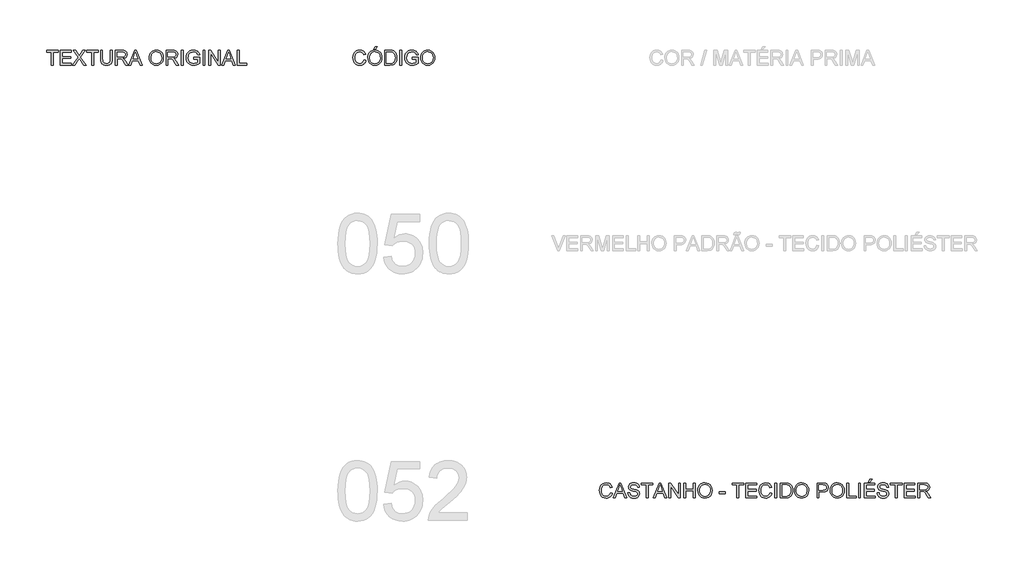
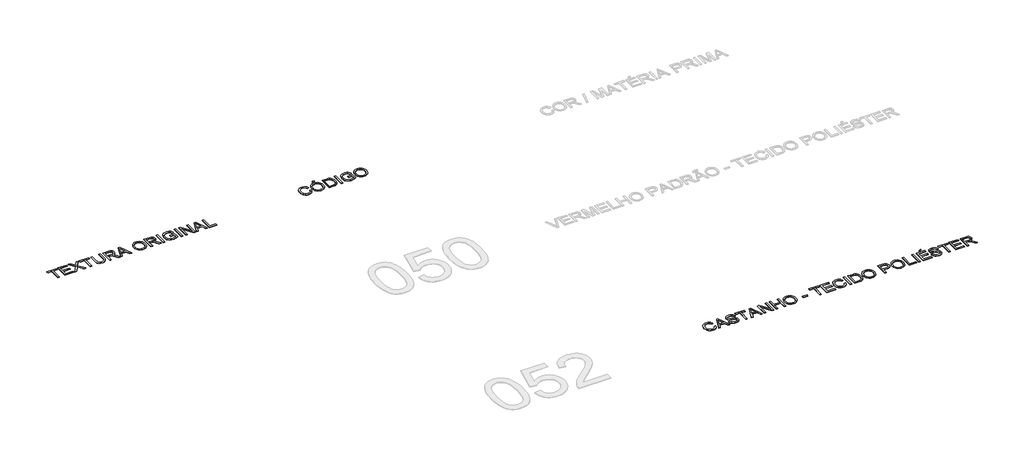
# One storey, part 19 of 67: 3 proxies.
"""IFC4 building model written with IfcOpenShell, lengths in millimetres."""

from ifc_helpers import new_model, si_unit, origin, origin_with_axes, place, context, project, spatial, polyline, outline, extrude, element, save

model = new_model("IFC4")

# Units and contexts
model_context = context("Model", 3, world=origin())
ifc_project = project(units=[si_unit("LENGTHUNIT", "METRE", prefix="MILLI")], contexts=[model_context])

# Site, building, storey
site = spatial("IfcSite", under=ifc_project)
building = spatial("IfcBuilding", under=site)
storey = spatial("IfcBuildingStorey", under=building, Name="Marelli - Linha COLAB - Planta Baixa", Elevation=0.0)

# Proxies
placement = place(None, origin())
element("IfcBuildingElementProxy", 1, Name="300mm Arial", ObjectType="300mm Arial", at=placement, inside=storey, context=model_context, shape_type="SweptSolid", body=[
    extrude(outline(polyline([(-24700.8246463, -26173.4390831), (-24663.15353, -26183.1511677), (-24670.6077389, -26206.5783531), (-24680.5359543, -26227.0486868), (-24692.938176, -26244.5621691), (-24707.8144042, -26259.1187997), (-24724.8289465, -26270.5622291), (-24743.6461105, -26278.7361071), (-24764.2658964, -26283.640434), (-24786.688304, -26285.2752096), (-24830.383488, -26280.3271968), (-24865.0839571, -26265.4831583), (-24891.6818254, -26241.2581289), (-24911.0692065, -26208.1671434), (-24922.9058097, -26169.2636224), (-24926.8513441, -26127.6009865), (-24922.3907749, -26083.6574821), (-24909.0090674, -26045.7104543), (-24887.4051972, -26014.9647166), (-24858.2781402, -25992.6250824), (-24823.7340209, -25979.0226457), (-24785.8789636, -25974.4885001), (-24744.5750126, -25980.3562179), (-24726.6062764, -25987.6908652), (-24710.4263664, -25997.9593714), (-24696.301997, -26010.8904235), (-24684.4998828, -26026.2127086), (-24667.8624195, -26064.0309777), (-24705.5335358, -26073.0072984), (-24718.5933467, -26045.5357104), (-24736.4356234, -26026.6909552), (-24759.2810953, -26015.7924511), (-24787.3504916, -26012.1596164), (-24819.705713, -26016.1879242), (-24846.2851872, -26028.2728478), (-24866.4543176, -26047.1451941), (-24879.5785078, -26071.5357704), (-24886.7797978, -26099.1085259), (-24889.1802278, -26127.5274101), (-24886.3383394, -26162.3290468), (-24877.8126742, -26192.421794), (-24863.2813354, -26216.6560205), (-24842.4224262, -26233.8820949), (-24817.4156476, -26244.1735937), (-24790.4407003, -26247.6040933), (-24758.9959868, -26242.931992), (-24732.7935917, -26228.9156879), (-24713.0107374, -26205.702334), (-24700.8246463, -26173.4390831)])), origin_with_axes(), (0.0, 0.0, 1.0), 10.0),
    extrude(outline(polyline([(-24625.4824137, -26133.8549804), (-24622.9716191, -26098.5061192), (-24615.4392352, -26067.213157), (-24602.8852621, -26039.9760937), (-24585.3096998, -26016.7949295), (-24563.7656105, -25998.2858666), (-24539.3060563, -25985.0651074), (-24511.9310374, -25977.1326519), (-24481.6405536, -25974.4885001), (-24442.1116332, -25979.454907), (-24406.666203, -25994.3541278), (-24377.2356433, -26018.1376988), (-24355.7513348, -26049.7571563), (-24342.6179476, -26087.68579), (-24338.2401519, -26130.3968896), (-24342.8478738, -26173.6782064), (-24356.6710398, -26212.140269), (-24378.9462946, -26243.8149087), (-24408.9102831, -26266.733957), (-24444.0522107, -26280.6398965), (-24481.8612828, -26285.2752096), (-24521.9972084, -26280.1524528), (-24557.6449738, -26264.7841825), (-24587.001957, -26240.5591531), (-24608.2655363, -26208.8661192), (-24621.1781943, -26172.3998164), (-24625.4824137, -26133.8549804)]), holes=[polyline([(-24587.8112974, -26134.2228624), (-24585.9282014, -26159.1974513), (-24580.2789135, -26181.3669401), (-24570.8634337, -26200.7313286), (-24557.681762, -26217.2906169), (-24541.6582018, -26230.5527628), (-24523.7170568, -26240.0257242), (-24503.8583268, -26245.709501), (-24482.082012, -26247.6040933), (-24459.9332166, -26245.6911069), (-24439.8399619, -26239.9521478), (-24421.8022478, -26230.3872159), (-24405.8200744, -26216.9963113), (-24392.7349717, -26200.0875351), (-24383.3884697, -26179.9689885), (-24377.7805685, -26156.6406715), (-24375.9112682, -26130.102584), (-24379.1118415, -26096.7540812), (-24388.7135616, -26067.9305269), (-24404.468108, -26044.358488), (-24426.1271605, -26026.7645316), (-24452.2559792, -26015.8108452), (-24481.4198244, -26012.1596164), (-24502.4396819, -26013.9185522), (-24521.9420261, -26019.1953595), (-24539.9268572, -26027.9900385), (-24556.394175, -26040.302589), (-24570.139166, -26056.7262208), (-24579.9570168, -26077.8541437), (-24585.8477272, -26103.6863575), (-24587.8112974, -26134.2228624)])]), origin_with_axes(), (0.0, 0.0, 1.0), 10.0),
    extrude(outline(polyline([(-24507.7601752, -25960.3618315), (-24479.506838, -25903.855157), (-24432.4179426, -25903.855157), (-24479.506838, -25960.3618315), (-24507.7601752, -25960.3618315)])), origin_with_axes(), (0.0, 0.0, 1.0), 10.0),
    extrude(outline(polyline([(-24286.4423669, -26280.5663201), (-24286.4423669, -25979.1973896), (-24182.4789151, -25979.1973896), (-24128.6945674, -25983.5383972), (-24104.6718731, -25991.9077126), (-24084.4015752, -26005.0962821), (-24063.5610602, -26028.0521186), (-24048.7170217, -26056.5997614), (-24039.8326715, -26090.1873876), (-24036.8712214, -26128.2631741), (-24038.8761783, -26160.6091985), (-24044.8910489, -26189.0740679), (-24054.0513106, -26213.3082943), (-24065.4924406, -26232.9623899), (-24078.6626161, -26248.477813), (-24093.0100139, -26260.2960221), (-24109.4819302, -26269.0608107), (-24129.0256612, -26275.4159721), (-24177.47572, -26280.5663201), (-24286.4423669, -26280.5663201)]), holes=[polyline([(-24248.7712506, -26242.8952038), (-24182.1110331, -26242.8952038), (-24154.5382776, -26241.5340404), (-24133.6241861, -26237.4505502), (-24117.8420485, -26230.8838566), (-24105.6651545, -26222.0730828), (-24092.5777525, -26205.7667134), (-24082.7461062, -26184.6594839), (-24076.5932798, -26158.6594239), (-24074.5423377, -26127.6745629), (-24078.5614485, -26086.6189322), (-24090.6187809, -26056.3054558), (-24108.4334665, -26035.4833349), (-24129.724637, -26022.9017706), (-24151.3928865, -26018.3768221), (-24183.1411027, -26016.8685059), (-24248.7712506, -26016.8685059), (-24248.7712506, -26242.8952038)])]), origin_with_axes(), (0.0, 0.0, 1.0), 10.0),
    extrude(outline(polyline([(-23980.3645469, -26280.5663201), (-23980.3645469, -25979.1973896), (-23942.6934306, -25979.1973896), (-23942.6934306, -26280.5663201), (-23980.3645469, -26280.5663201)])), origin_with_axes(), (0.0, 0.0, 1.0), 10.0),
    extrude(outline(polyline([(-23726.0845119, -26162.8440816), (-23726.0845119, -26125.1729653), (-23603.6533839, -26125.1729653), (-23603.6533839, -26237.8184322), (-23633.4058402, -26258.5117945), (-23664.0963957, -26273.355833), (-23695.6514738, -26282.2953654), (-23727.9974983, -26285.2752096), (-23770.2579425, -26280.5387289), (-23808.4532906, -26266.3292869), (-23840.1831127, -26243.1435241), (-23863.0469787, -26211.4780814), (-23876.8701447, -26173.4942654), (-23881.4778666, -26131.3533828), (-23876.8885388, -26088.9089976), (-23863.1205551, -26049.4260625), (-23840.7441327, -26016.3074859), (-23810.3294888, -25992.9561762), (-23773.2837719, -25979.1054191), (-23731.0141306, -25974.4885001), (-23699.9832843, -25977.1648416), (-23672.079435, -25985.1938661), (-23648.5809725, -25997.9961596), (-23630.7662869, -26014.9923077), (-23617.5869145, -26037.0008481), (-23607.9943914, -26064.8403181), (-23642.7224518, -26074.6259792), (-23650.4755648, -26054.7695485), (-23659.9025409, -26039.7875542), (-23672.3737406, -26028.493577), (-23689.2595242, -26019.7011973), (-23709.3918663, -26014.0450116), (-23731.6027418, -26012.1596164), (-23757.6028018, -26014.1921644), (-23779.8320714, -26020.2898085), (-23798.207777, -26029.6891935), (-23812.6471453, -26041.6269642), (-23832.0345265, -26070.6528536), (-23840.8636944, -26099.0901318), (-23843.8067503, -26129.8082784), (-23840.2658861, -26165.8331228), (-23829.6432935, -26195.4752146), (-23812.2608693, -26218.5230216), (-23788.4405101, -26234.7650117), (-23760.5642519, -26244.3943229), (-23731.0141306, -26247.6040933), (-23704.9221001, -26245.1852692), (-23679.4738631, -26237.9287968), (-23657.3733522, -26227.9316036), (-23641.3245002, -26217.2906169), (-23641.3245002, -26162.8440816), (-23726.0845119, -26162.8440816)])), origin_with_axes(), (0.0, 0.0, 1.0), 10.0),
    extrude(outline(polyline([(-23556.5644885, -26133.8549804), (-23554.0536939, -26098.5061192), (-23546.52131, -26067.213157), (-23533.9673369, -26039.9760937), (-23516.3917746, -26016.7949295), (-23494.8476853, -25998.2858666), (-23470.3881311, -25985.0651074), (-23443.0131122, -25977.1326519), (-23412.7226284, -25974.4885001), (-23373.193708, -25979.454907), (-23337.7482778, -25994.3541278), (-23308.3177182, -26018.1376988), (-23286.8334096, -26049.7571563), (-23273.7000224, -26087.68579), (-23269.3222267, -26130.3968896), (-23273.9299487, -26173.6782064), (-23287.7531146, -26212.140269), (-23310.0283694, -26243.8149087), (-23339.9923579, -26266.733957), (-23375.1342855, -26280.6398965), (-23412.9433576, -26285.2752096), (-23453.0792833, -26280.1524528), (-23488.7270486, -26264.7841825), (-23518.0840318, -26240.5591531), (-23539.3476111, -26208.8661192), (-23552.2602692, -26172.3998164), (-23556.5644885, -26133.8549804)]), holes=[polyline([(-23518.8933722, -26134.2228624), (-23517.0102762, -26159.1974513), (-23511.3609883, -26181.3669401), (-23501.9455085, -26200.7313286), (-23488.7638368, -26217.2906169), (-23472.7402766, -26230.5527628), (-23454.7991316, -26240.0257242), (-23434.9404016, -26245.709501), (-23413.1640868, -26247.6040933), (-23391.0152914, -26245.6911069), (-23370.9220367, -26239.9521478), (-23352.8843226, -26230.3872159), (-23336.9021492, -26216.9963113), (-23323.8170465, -26200.0875351), (-23314.4705445, -26179.9689885), (-23308.8626434, -26156.6406715), (-23306.993343, -26130.102584), (-23310.1939163, -26096.7540812), (-23319.7956364, -26067.9305269), (-23335.5501829, -26044.358488), (-23357.2092353, -26026.7645316), (-23383.338054, -26015.8108452), (-23412.5018992, -26012.1596164), (-23433.5217567, -26013.9185522), (-23453.024101, -26019.1953595), (-23471.008932, -26027.9900385), (-23487.4762498, -26040.302589), (-23501.2212409, -26056.7262208), (-23511.0390916, -26077.8541437), (-23516.929802, -26103.6863575), (-23518.8933722, -26134.2228624)])]), origin_with_axes(), (0.0, 0.0, 1.0), 10.0),
])
element("IfcBuildingElementProxy", 2, Name="300mm Arial", ObjectType="300mm Arial", at=placement, inside=storey, context=model_context, shape_type="SweptSolid", body=[
    extrude(outline(polyline([(-31021.6681618, -26280.5663201), (-31021.6681618, -26016.8685059), (-31120.5548421, -26016.8685059), (-31120.5548421, -25979.1973896), (-30885.1103652, -25979.1973896), (-30885.1103652, -26016.8685059), (-30983.9970455, -26016.8685059), (-30983.9970455, -26280.5663201), (-31021.6681618, -26280.5663201)])), origin_with_axes(), (0.0, 0.0, 1.0), 10.0),
    extrude(outline(polyline([(-30842.7303593, -26280.5663201), (-30842.7303593, -25979.1973896), (-30626.1214406, -25979.1973896), (-30626.1214406, -26016.8685059), (-30805.059243, -26016.8685059), (-30805.059243, -26106.3374072), (-30635.5392196, -26106.3374072), (-30635.5392196, -26144.0085235), (-30805.059243, -26144.0085235), (-30805.059243, -26242.8952038), (-30621.412551, -26242.8952038), (-30621.412551, -26280.5663201), (-30842.7303593, -26280.5663201)])), origin_with_axes(), (0.0, 0.0, 1.0), 10.0),
    extrude(outline(polyline([(-30597.8681033, -26280.5663201), (-30481.6909693, -26116.3437974), (-30579.0325452, -25979.1973896), (-30533.8566362, -25979.1973896), (-30479.0422189, -26056.3790322), (-30460.5745427, -26086.4717794), (-30438.9430814, -26055.8639974), (-30384.7172753, -25979.1973896), (-30338.8791787, -25979.1973896), (-30436.2207547, -26116.7852558), (-30320.0436206, -26280.5663201), (-30365.2195296, -26280.5663201), (-30442.6219014, -26171.3789439), (-30458.7351328, -26148.717413), (-30476.4670449, -26173.5862359), (-30552.0300067, -26280.5663201), (-30597.8681033, -26280.5663201)])), origin_with_axes(), (0.0, 0.0, 1.0), 10.0),
    extrude(outline(polyline([(-30207.0302717, -26280.5663201), (-30207.0302717, -26016.8685059), (-30305.916952, -26016.8685059), (-30305.916952, -25979.1973896), (-30070.4724751, -25979.1973896), (-30070.4724751, -26016.8685059), (-30169.3591554, -26016.8685059), (-30169.3591554, -26280.5663201), (-30207.0302717, -26280.5663201)])), origin_with_axes(), (0.0, 0.0, 1.0), 10.0),
    extrude(outline(polyline([(-29830.3191086, -25979.1973896), (-29792.6479923, -25979.1973896), (-29792.6479923, -26153.0584205), (-29795.2047722, -26193.7737604), (-29802.8751118, -26225.1265034), (-29817.2041155, -26249.3147446), (-29839.7368877, -26268.5365788), (-29870.5286107, -26281.0905519), (-29909.6344668, -26285.2752096), (-29947.8849972, -26281.6331779), (-29978.4651881, -26270.7070826), (-30001.3842364, -26252.8740029), (-30016.6513392, -26228.5110178), (-30025.2321867, -26195.8338995), (-30028.0924692, -26153.0584205), (-30028.0924692, -25979.1973896), (-29990.4213529, -25979.1973896), (-29990.4213529, -26151.7340454), (-29988.5635488, -26185.588386), (-29982.9901366, -26209.1604248), (-29972.8917758, -26225.4851883), (-29957.4591261, -26237.597703), (-29937.335981, -26245.1024957), (-29913.1661339, -26247.6040933), (-29874.8512241, -26242.6560805), (-29860.5084248, -26236.4710644), (-29849.375396, -26227.812042), (-29841.0382702, -26215.6351479), (-29835.0831804, -26198.8965171), (-29830.3191086, -26151.7340454), (-29830.3191086, -25979.1973896)])), origin_with_axes(), (0.0, 0.0, 1.0), 10.0),
    extrude(outline(polyline([(-29726.7235388, -26280.5663201), (-29726.7235388, -25979.1973896), (-29596.8611945, -25979.1973896), (-29561.9583902, -25981.2299376), (-29536.5653355, -25987.3275817), (-29518.0056888, -25998.5847708), (-29503.6031087, -26016.0959537), (-29494.3600736, -26037.8101885), (-29491.2790618, -26061.6765329), (-29496.3834245, -26091.3646099), (-29511.6965126, -26115.9759154), (-29523.2962917, -26126.0052983), (-29537.6781785, -26134.0205273), (-29574.7882748, -26144.0085235), (-29553.3775426, -26160.1217548), (-29522.843337, -26198.8965171), (-29472.5906565, -26280.5663201), (-29516.3686139, -26280.5663201), (-29555.5848346, -26218.0999573), (-29583.9117482, -26176.750021), (-29603.8141642, -26157.2154871), (-29621.7300173, -26150.0417882), (-29643.5822079, -26148.717413), (-29689.0524225, -26148.717413), (-29689.0524225, -26280.5663201), (-29726.7235388, -26280.5663201)]), holes=[polyline([(-29689.0524225, -26111.0462967), (-29604.7338692, -26111.0462967), (-29580.5180368, -26109.7127245), (-29561.7284639, -26105.7120078), (-29547.5834012, -26098.7774322), (-29537.3010994, -26088.6422832), (-29531.0379085, -26076.3826157), (-29528.9501782, -26063.0744845), (-29532.9325008, -26044.6987789), (-29544.8794685, -26029.8915286), (-29565.434875, -26020.1242616), (-29595.2425137, -26016.8685059), (-29689.0524225, -26016.8685059), (-29689.0524225, -26111.0462967)])]), origin_with_axes(), (0.0, 0.0, 1.0), 10.0),
    extrude(outline(polyline([(-29460.4505507, -26280.5663201), (-29340.1531382, -25979.1973896), (-29308.0738283, -25979.1973896), (-29187.7764158, -26280.5663201), (-29227.5812477, -26280.5663201), (-29262.0885789, -26186.3885293), (-29386.211964, -26186.3885293), (-29420.6457188, -26280.5663201), (-29460.4505507, -26280.5663201)]), holes=[polyline([(-29372.379601, -26148.717413), (-29275.8473655, -26148.717413), (-29302.9970567, -26074.6259792), (-29324.1134832, -26016.8685059), (-29342.875465, -26068.1512561), (-29372.379601, -26148.717413)])]), origin_with_axes(), (0.0, 0.0, 1.0), 10.0),
    extrude(outline(polyline([(-29043.9345557, -26133.8549804), (-29041.4237611, -26098.5061192), (-29033.8913772, -26067.213157), (-29021.3374042, -26039.9760937), (-29003.7618418, -26016.7949295), (-28982.2177525, -25998.2858666), (-28957.7581983, -25985.0651074), (-28930.3831794, -25977.1326519), (-28900.0926956, -25974.4885001), (-28860.5637752, -25979.454907), (-28825.118345, -25994.3541278), (-28795.6877854, -26018.1376988), (-28774.2034768, -26049.7571563), (-28761.0700896, -26087.68579), (-28756.6922939, -26130.3968896), (-28761.3000159, -26173.6782064), (-28775.1231818, -26212.140269), (-28797.3984366, -26243.8149087), (-28827.3624252, -26266.733957), (-28862.5043527, -26280.6398965), (-28900.3134248, -26285.2752096), (-28940.4493505, -26280.1524528), (-28976.0971158, -26264.7841825), (-29005.454099, -26240.5591531), (-29026.7176783, -26208.8661192), (-29039.6303364, -26172.3998164), (-29043.9345557, -26133.8549804)]), holes=[polyline([(-29006.2634394, -26134.2228624), (-29004.3803434, -26159.1974513), (-28998.7310556, -26181.3669401), (-28989.3155757, -26200.7313286), (-28976.133904, -26217.2906169), (-28960.1103438, -26230.5527628), (-28942.1691988, -26240.0257242), (-28922.3104688, -26245.709501), (-28900.534154, -26247.6040933), (-28878.3853586, -26245.6911069), (-28858.2921039, -26239.9521478), (-28840.2543898, -26230.3872159), (-28824.2722164, -26216.9963113), (-28811.1871137, -26200.0875351), (-28801.8406117, -26179.9689885), (-28796.2327106, -26156.6406715), (-28794.3634102, -26130.102584), (-28797.5639835, -26096.7540812), (-28807.1657036, -26067.9305269), (-28822.9202501, -26044.358488), (-28844.5793025, -26026.7645316), (-28870.7081212, -26015.8108452), (-28899.8719664, -26012.1596164), (-28920.8918239, -26013.9185522), (-28940.3941682, -26019.1953595), (-28958.3789992, -26027.9900385), (-28974.846317, -26040.302589), (-28988.5913081, -26056.7262208), (-28998.4091588, -26077.8541437), (-29004.2998693, -26103.6863575), (-29006.2634394, -26134.2228624)])]), origin_with_axes(), (0.0, 0.0, 1.0), 10.0),
    extrude(outline(polyline([(-28704.894509, -26280.5663201), (-28704.894509, -25979.1973896), (-28575.0321647, -25979.1973896), (-28540.1293604, -25981.2299376), (-28514.7363057, -25987.3275817), (-28496.176659, -25998.5847708), (-28481.7740789, -26016.0959537), (-28472.5310438, -26037.8101885), (-28469.450032, -26061.6765329), (-28474.5543947, -26091.3646099), (-28489.8674828, -26115.9759154), (-28501.4672619, -26126.0052983), (-28515.8491487, -26134.0205273), (-28552.959245, -26144.0085235), (-28531.5485128, -26160.1217548), (-28501.0143072, -26198.8965171), (-28450.7616267, -26280.5663201), (-28494.5395841, -26280.5663201), (-28533.7558048, -26218.0999573), (-28562.0827184, -26176.750021), (-28581.9851344, -26157.2154871), (-28599.9009875, -26150.0417882), (-28621.753178, -26148.717413), (-28667.2233927, -26148.717413), (-28667.2233927, -26280.5663201), (-28704.894509, -26280.5663201)]), holes=[polyline([(-28667.2233927, -26111.0462967), (-28582.9048394, -26111.0462967), (-28558.689007, -26109.7127245), (-28539.8994341, -26105.7120078), (-28525.7543714, -26098.7774322), (-28515.4720696, -26088.6422832), (-28509.2088787, -26076.3826157), (-28507.1211484, -26063.0744845), (-28511.1034709, -26044.6987789), (-28523.0504387, -26029.8915286), (-28543.6058452, -26020.1242616), (-28573.4134839, -26016.8685059), (-28667.2233927, -26016.8685059), (-28667.2233927, -26111.0462967)])]), origin_with_axes(), (0.0, 0.0, 1.0), 10.0),
    extrude(outline(polyline([(-28398.816689, -26280.5663201), (-28398.816689, -25979.1973896), (-28361.1455727, -25979.1973896), (-28361.1455727, -26280.5663201), (-28398.816689, -26280.5663201)])), origin_with_axes(), (0.0, 0.0, 1.0), 10.0),
    extrude(outline(polyline([(-28144.5366539, -26162.8440816), (-28144.5366539, -26125.1729653), (-28022.1055259, -26125.1729653), (-28022.1055259, -26237.8184322), (-28051.8579823, -26258.5117945), (-28082.5485377, -26273.355833), (-28114.1036159, -26282.2953654), (-28146.4496403, -26285.2752096), (-28188.7100845, -26280.5387289), (-28226.9054326, -26266.3292869), (-28258.6352547, -26243.1435241), (-28281.4991207, -26211.4780814), (-28295.3222867, -26173.4942654), (-28299.9300087, -26131.3533828), (-28295.3406808, -26088.9089976), (-28281.5726971, -26049.4260625), (-28259.1962748, -26016.3074859), (-28228.7816308, -25992.9561762), (-28191.7359139, -25979.1054191), (-28149.4662726, -25974.4885001), (-28118.4354263, -25977.1648416), (-28090.531577, -25985.1938661), (-28067.0331146, -25997.9961596), (-28049.218429, -26014.9923077), (-28036.0390565, -26037.0008481), (-28026.4465335, -26064.8403181), (-28061.1745938, -26074.6259792), (-28068.9277068, -26054.7695485), (-28078.354683, -26039.7875542), (-28090.8258826, -26028.493577), (-28107.7116662, -26019.7011973), (-28127.8440084, -26014.0450116), (-28150.0548838, -26012.1596164), (-28176.0549438, -26014.1921644), (-28198.2842134, -26020.2898085), (-28216.6599191, -26029.6891935), (-28231.0992874, -26041.6269642), (-28250.4866685, -26070.6528536), (-28259.3158364, -26099.0901318), (-28262.2588924, -26129.8082784), (-28258.7180282, -26165.8331228), (-28248.0954355, -26195.4752146), (-28230.7130113, -26218.5230216), (-28206.8926521, -26234.7650117), (-28179.0163939, -26244.3943229), (-28149.4662726, -26247.6040933), (-28123.3742421, -26245.1852692), (-28097.9260051, -26237.9287968), (-28075.8254943, -26227.9316036), (-28059.7766422, -26217.2906169), (-28059.7766422, -26162.8440816), (-28144.5366539, -26162.8440816)])), origin_with_axes(), (0.0, 0.0, 1.0), 10.0),
    extrude(outline(polyline([(-27956.1810724, -26280.5663201), (-27956.1810724, -25979.1973896), (-27918.5099561, -25979.1973896), (-27918.5099561, -26280.5663201), (-27956.1810724, -26280.5663201)])), origin_with_axes(), (0.0, 0.0, 1.0), 10.0),
    extrude(outline(polyline([(-27843.1677235, -26280.5663201), (-27843.1677235, -25979.1973896), (-27802.8478568, -25979.1973896), (-27645.3943628, -26217.9528045), (-27645.3943628, -25979.1973896), (-27607.7232465, -25979.1973896), (-27607.7232465, -26280.5663201), (-27648.0431132, -26280.5663201), (-27805.4966072, -26041.7373288), (-27805.4966072, -26280.5663201), (-27843.1677235, -26280.5663201)])), origin_with_axes(), (0.0, 0.0, 1.0), 10.0),
    extrude(outline(polyline([(-27576.8947353, -26280.5663201), (-27456.5973229, -25979.1973896), (-27424.5180129, -25979.1973896), (-27304.2206005, -26280.5663201), (-27344.0254324, -26280.5663201), (-27378.5327635, -26186.3885293), (-27502.6561487, -26186.3885293), (-27537.0899035, -26280.5663201), (-27576.8947353, -26280.5663201)]), holes=[polyline([(-27488.8237857, -26148.717413), (-27392.2915502, -26148.717413), (-27419.4412414, -26074.6259792), (-27440.5576679, -26016.8685059), (-27459.3196497, -26068.1512561), (-27488.8237857, -26148.717413)])]), origin_with_axes(), (0.0, 0.0, 1.0), 10.0),
    extrude(outline(polyline([(-27263.9743102, -26280.5663201), (-27263.9743102, -25979.1973896), (-27226.3031939, -25979.1973896), (-27226.3031939, -26242.8952038), (-27075.6187287, -26242.8952038), (-27075.6187287, -26280.5663201), (-27263.9743102, -26280.5663201)])), origin_with_axes(), (0.0, 0.0, 1.0), 10.0),
])
element("IfcBuildingElementProxy", 3, Name="300mm Arial", ObjectType="300mm Arial", at=placement, inside=storey, context=model_context, shape_type="SweptSolid", body=[
    extrude(outline(polyline([(-19717.7261045, -34923.4390831), (-19680.0549882, -34933.1511677), (-19687.5091971, -34956.5783531), (-19697.4374125, -34977.0486868), (-19709.8396342, -34994.5621691), (-19724.7158624, -35009.1187997), (-19741.7304047, -35020.5622291), (-19760.5475687, -35028.7361071), (-19781.1673546, -35033.640434), (-19803.5897622, -35035.2752096), (-19847.2849462, -35030.3271968), (-19881.9854153, -35015.4831583), (-19908.5832836, -34991.2581289), (-19927.9706647, -34958.1671434), (-19939.8072679, -34919.2636224), (-19943.7528023, -34877.6009865), (-19939.2922331, -34833.6574821), (-19925.9105256, -34795.7104543), (-19904.3066554, -34764.9647166), (-19875.1795984, -34742.6250824), (-19840.6354791, -34729.0226457), (-19802.7804218, -34724.4885001), (-19761.4764708, -34730.3562179), (-19743.5077346, -34737.6908652), (-19727.3278246, -34747.9593714), (-19713.2034552, -34760.8904235), (-19701.401341, -34776.2127086), (-19684.7638777, -34814.0309777), (-19722.434994, -34823.0072984), (-19735.4948049, -34795.5357104), (-19753.3370816, -34776.6909552), (-19776.1825535, -34765.7924511), (-19804.2519498, -34762.1596164), (-19836.6071712, -34766.1879242), (-19863.1866454, -34778.2728478), (-19883.3557758, -34797.1451941), (-19896.479966, -34821.5357704), (-19903.681256, -34849.1085259), (-19906.081686, -34877.5274101), (-19903.2397976, -34912.3290468), (-19894.7141324, -34942.421794), (-19880.1827936, -34966.6560205), (-19859.3238844, -34983.8820949), (-19834.3171058, -34994.1735937), (-19807.3421585, -34997.6040933), (-19775.897445, -34992.931992), (-19749.6950499, -34978.9156879), (-19729.9121956, -34955.702334), (-19717.7261045, -34923.4390831)])), origin_with_axes(), (0.0, 0.0, 1.0), 10.0),
    extrude(outline(polyline([(-19663.3531456, -35030.5663201), (-19543.0557332, -34729.1973896), (-19510.9764232, -34729.1973896), (-19390.6790108, -35030.5663201), (-19430.4838427, -35030.5663201), (-19464.9911738, -34936.3885293), (-19589.114559, -34936.3885293), (-19623.5483137, -35030.5663201), (-19663.3531456, -35030.5663201)]), holes=[polyline([(-19575.282196, -34898.717413), (-19478.7499604, -34898.717413), (-19505.8996517, -34824.6259792), (-19527.0160782, -34766.8685059), (-19545.77806, -34818.1512561), (-19575.282196, -34898.717413)])]), origin_with_axes(), (0.0, 0.0, 1.0), 10.0),
    extrude(outline(polyline([(-19364.5593891, -34926.9707502), (-19326.8882728, -34926.9707502), (-19322.5656594, -34947.8756446), (-19314.748167, -34964.6786547), (-19302.5528788, -34978.0143771), (-19285.0968782, -34988.517408), (-19263.7597225, -34995.332422), (-19239.9209692, -34997.6040933), (-19218.9333013, -34995.884245), (-19200.5575957, -34990.7247), (-19185.6675719, -34982.5577197), (-19175.1369498, -34971.8155654), (-19168.8737588, -34959.4823215), (-19166.7860285, -34946.5420724), (-19168.349527, -34933.932917), (-19173.0400224, -34923.0344129), (-19182.5681661, -34913.7361954), (-19198.6446093, -34905.9279001), (-19253.4958148, -34891.5437141), (-19289.5022651, -34882.0247675), (-19312.540875, -34872.9656733), (-19331.2936597, -34860.2921386), (-19344.5833968, -34844.9330653), (-19352.5020567, -34827.2195472), (-19355.1416101, -34807.4826782), (-19351.8766573, -34785.4189555), (-19342.0817992, -34764.845155), (-19326.0145531, -34747.4075484), (-19303.9324363, -34734.7524077), (-19277.4265386, -34727.054477), (-19248.0879495, -34724.4885001), (-19216.3029451, -34727.1740386), (-19188.4910662, -34735.2306543), (-19165.6455943, -34748.4928003), (-19148.7598108, -34766.7949295), (-19138.0728388, -34788.9966079), (-19133.8238018, -34813.9574013), (-19171.4949181, -34813.9574013), (-19178.4110996, -34791.4798114), (-19192.8320738, -34775.2562154), (-19215.364846, -34765.4337661), (-19246.6164215, -34762.1596164), (-19278.603761, -34765.3969779), (-19300.547922, -34775.1090626), (-19313.2398508, -34789.4012781), (-19317.4704938, -34806.3790322), (-19314.4722555, -34820.8551887), (-19305.4775407, -34832.4986539), (-19284.2139614, -34842.9097143), (-19243.9676711, -34853.541504), (-19202.4337939, -34863.6398648), (-19177.3074536, -34872.4506385), (-19155.8323421, -34886.1174547), (-19140.8503479, -34902.9848441), (-19132.0487711, -34922.868866), (-19129.1149122, -34945.5855792), (-19132.4902295, -34968.8081301), (-19142.6161814, -34990.6511236), (-19159.0789007, -35009.4498935), (-19181.4645201, -35023.539774), (-19208.3842851, -35032.3413507), (-19238.4494412, -35035.2752096), (-19275.3572024, -35032.1114244), (-19305.7350581, -35022.620069), (-19329.9324963, -35006.764355), (-19348.2990049, -34984.5074943), (-19360.0896229, -34957.3945912), (-19364.5593891, -34926.9707502)])), origin_with_axes(), (0.0, 0.0, 1.0), 10.0),
    extrude(outline(polyline([(-18997.2660051, -35030.5663201), (-18997.2660051, -34766.8685059), (-19096.1526855, -34766.8685059), (-19096.1526855, -34729.1973896), (-18860.7082085, -34729.1973896), (-18860.7082085, -34766.8685059), (-18959.5948888, -34766.8685059), (-18959.5948888, -35030.5663201), (-18997.2660051, -35030.5663201)])), origin_with_axes(), (0.0, 0.0, 1.0), 10.0),
    extrude(outline(polyline([(-18853.424145, -35030.5663201), (-18733.1267326, -34729.1973896), (-18701.0474226, -34729.1973896), (-18580.7500102, -35030.5663201), (-18620.5548421, -35030.5663201), (-18655.0621732, -34936.3885293), (-18779.1855584, -34936.3885293), (-18813.6193132, -35030.5663201), (-18853.424145, -35030.5663201)]), holes=[polyline([(-18765.3531954, -34898.717413), (-18668.8209599, -34898.717413), (-18695.9706511, -34824.6259792), (-18717.0870776, -34766.8685059), (-18735.8490594, -34818.1512561), (-18765.3531954, -34898.717413)])]), origin_with_axes(), (0.0, 0.0, 1.0), 10.0),
    extrude(outline(polyline([(-18540.5037199, -35030.5663201), (-18540.5037199, -34729.1973896), (-18500.1838533, -34729.1973896), (-18342.7303593, -34967.9528045), (-18342.7303593, -34729.1973896), (-18305.059243, -34729.1973896), (-18305.059243, -35030.5663201), (-18345.3791097, -35030.5663201), (-18502.8326036, -34791.7373288), (-18502.8326036, -35030.5663201), (-18540.5037199, -35030.5663201)])), origin_with_axes(), (0.0, 0.0, 1.0), 10.0),
    extrude(outline(polyline([(-18239.1347895, -35030.5663201), (-18239.1347895, -34729.1973896), (-18201.4636732, -34729.1973896), (-18201.4636732, -34851.6285176), (-18041.3614289, -34851.6285176), (-18041.3614289, -34729.1973896), (-18003.6903126, -34729.1973896), (-18003.6903126, -35030.5663201), (-18041.3614289, -35030.5663201), (-18041.3614289, -34889.2996339), (-18201.4636732, -34889.2996339), (-18201.4636732, -35030.5663201), (-18239.1347895, -35030.5663201)])), origin_with_axes(), (0.0, 0.0, 1.0), 10.0),
    extrude(outline(polyline([(-17951.8925277, -34883.8549804), (-17949.381733, -34848.5061192), (-17941.8493492, -34817.213157), (-17929.2953761, -34789.9760937), (-17911.7198138, -34766.7949295), (-17890.1757244, -34748.2858666), (-17865.7161703, -34735.0651074), (-17838.3411513, -34727.1326519), (-17808.0506675, -34724.4885001), (-17768.5217472, -34729.454907), (-17733.0763169, -34744.3541278), (-17703.6457573, -34768.1376988), (-17682.1614488, -34799.7571563), (-17669.0280616, -34837.68579), (-17664.6502658, -34880.3968896), (-17669.2579878, -34923.6782064), (-17683.0811538, -34962.140269), (-17705.3564086, -34993.8149087), (-17735.3203971, -35016.733957), (-17770.4623247, -35030.6398965), (-17808.2713967, -35035.2752096), (-17848.4073224, -35030.1524528), (-17884.0550877, -35014.7841825), (-17913.412071, -34990.5591531), (-17934.6756503, -34958.8661192), (-17947.5883083, -34922.3998164), (-17951.8925277, -34883.8549804)]), holes=[polyline([(-17914.2214113, -34884.2228624), (-17912.3383154, -34909.1974513), (-17906.6890275, -34931.3669401), (-17897.2735477, -34950.7313286), (-17884.0918759, -34967.2906169), (-17868.0683158, -34980.5527628), (-17850.1271707, -34990.0257242), (-17830.2684408, -34995.709501), (-17808.4921259, -34997.6040933), (-17786.3433306, -34995.6911069), (-17766.2500758, -34989.9521478), (-17748.2123618, -34980.3872159), (-17732.2301883, -34966.9963113), (-17719.1450856, -34950.0875351), (-17709.7985837, -34929.9689885), (-17704.1906825, -34906.6406715), (-17702.3213821, -34880.102584), (-17705.5219555, -34846.7540812), (-17715.1236756, -34817.9305269), (-17730.878222, -34794.358488), (-17752.5372745, -34776.7645316), (-17778.6660932, -34765.8108452), (-17807.8299383, -34762.1596164), (-17828.8497958, -34763.9185522), (-17848.3521401, -34769.1953595), (-17866.3369712, -34777.9900385), (-17882.804289, -34790.302589), (-17896.54928, -34806.7262208), (-17906.3671308, -34827.8541437), (-17912.2578412, -34853.6863575), (-17914.2214113, -34884.2228624)])]), origin_with_axes(), (0.0, 0.0, 1.0), 10.0),
    extrude(outline(polyline([(-17518.6746901, -34941.0974188), (-17518.6746901, -34903.4263025), (-17400.9524517, -34903.4263025), (-17400.9524517, -34941.0974188), (-17518.6746901, -34941.0974188)])), origin_with_axes(), (0.0, 0.0, 1.0), 10.0),
    extrude(outline(polyline([(-17160.7990852, -35030.5663201), (-17160.7990852, -34766.8685059), (-17259.6857655, -34766.8685059), (-17259.6857655, -34729.1973896), (-17024.2412886, -34729.1973896), (-17024.2412886, -34766.8685059), (-17123.1279689, -34766.8685059), (-17123.1279689, -35030.5663201), (-17160.7990852, -35030.5663201)])), origin_with_axes(), (0.0, 0.0, 1.0), 10.0),
    extrude(outline(polyline([(-16981.8612828, -35030.5663201), (-16981.8612828, -34729.1973896), (-16765.252364, -34729.1973896), (-16765.252364, -34766.8685059), (-16944.1901665, -34766.8685059), (-16944.1901665, -34856.3374072), (-16774.6701431, -34856.3374072), (-16774.6701431, -34894.0085235), (-16944.1901665, -34894.0085235), (-16944.1901665, -34992.8952038), (-16760.5434745, -34992.8952038), (-16760.5434745, -35030.5663201), (-16981.8612828, -35030.5663201)])), origin_with_axes(), (0.0, 0.0, 1.0), 10.0),
    extrude(outline(polyline([(-16492.1367708, -34923.4390831), (-16454.4656545, -34933.1511677), (-16461.9198634, -34956.5783531), (-16471.8480788, -34977.0486868), (-16484.2503005, -34994.5621691), (-16499.1265287, -35009.1187997), (-16516.141071, -35020.5622291), (-16534.958235, -35028.7361071), (-16555.5780209, -35033.640434), (-16578.0004285, -35035.2752096), (-16621.6956124, -35030.3271968), (-16656.3960816, -35015.4831583), (-16682.9939499, -34991.2581289), (-16702.381331, -34958.1671434), (-16714.2179342, -34919.2636224), (-16718.1634686, -34877.6009865), (-16713.7028994, -34833.6574821), (-16700.3211919, -34795.7104543), (-16678.7173217, -34764.9647166), (-16649.5902647, -34742.6250824), (-16615.0461454, -34729.0226457), (-16577.1910881, -34724.4885001), (-16535.8871371, -34730.3562179), (-16517.9184009, -34737.6908652), (-16501.7384909, -34747.9593714), (-16487.6141215, -34760.8904235), (-16475.8120073, -34776.2127086), (-16459.174544, -34814.0309777), (-16496.8456603, -34823.0072984), (-16509.9054712, -34795.5357104), (-16527.7477479, -34776.6909552), (-16550.5932198, -34765.7924511), (-16578.6626161, -34762.1596164), (-16611.0178375, -34766.1879242), (-16637.5973117, -34778.2728478), (-16657.7664421, -34797.1451941), (-16670.8906322, -34821.5357704), (-16678.0919223, -34849.1085259), (-16680.4923523, -34877.5274101), (-16677.6504639, -34912.3290468), (-16669.1247987, -34942.421794), (-16654.5934599, -34966.6560205), (-16633.7345507, -34983.8820949), (-16608.7277721, -34994.1735937), (-16581.7528248, -34997.6040933), (-16550.3081113, -34992.931992), (-16524.1057162, -34978.9156879), (-16504.3228619, -34955.702334), (-16492.1367708, -34923.4390831)])), origin_with_axes(), (0.0, 0.0, 1.0), 10.0),
    extrude(outline(polyline([(-16397.95898, -35030.5663201), (-16397.95898, -34729.1973896), (-16360.2878637, -34729.1973896), (-16360.2878637, -35030.5663201), (-16397.95898, -35030.5663201)])), origin_with_axes(), (0.0, 0.0, 1.0), 10.0),
    extrude(outline(polyline([(-16284.9456311, -35030.5663201), (-16284.9456311, -34729.1973896), (-16180.9821793, -34729.1973896), (-16127.1978316, -34733.5383972), (-16103.1751373, -34741.9077126), (-16082.9048394, -34755.0962821), (-16062.0643243, -34778.0521186), (-16047.2202858, -34806.5997614), (-16038.3359356, -34840.1873876), (-16035.3744856, -34878.2631741), (-16037.3794425, -34910.6091985), (-16043.3943131, -34939.0740679), (-16052.5545748, -34963.3082943), (-16063.9957048, -34982.9623899), (-16077.1658802, -34998.477813), (-16091.513278, -35010.2960221), (-16107.9851944, -35019.0608107), (-16127.5289254, -35025.4159721), (-16175.9789841, -35030.5663201), (-16284.9456311, -35030.5663201)]), holes=[polyline([(-16247.2745148, -34992.8952038), (-16180.6142973, -34992.8952038), (-16153.0415417, -34991.5340404), (-16132.1274503, -34987.4505502), (-16116.3453127, -34980.8838566), (-16104.1684187, -34972.0730828), (-16091.0810167, -34955.7667134), (-16081.2493704, -34934.6594839), (-16075.096544, -34908.6594239), (-16073.0456019, -34877.6745629), (-16077.0647127, -34836.6189322), (-16089.1220451, -34806.3054558), (-16106.9367307, -34785.4833349), (-16128.2279012, -34772.9017706), (-16149.8961507, -34768.3768221), (-16181.6443669, -34766.8685059), (-16247.2745148, -34766.8685059), (-16247.2745148, -34992.8952038)])]), origin_with_axes(), (0.0, 0.0, 1.0), 10.0),
    extrude(outline(polyline([(-15997.7033693, -34883.8549804), (-15995.1925747, -34848.5061192), (-15987.6601908, -34817.213157), (-15975.1062177, -34789.9760937), (-15957.5306554, -34766.7949295), (-15935.9865661, -34748.2858666), (-15911.5270119, -34735.0651074), (-15884.1519929, -34727.1326519), (-15853.8615092, -34724.4885001), (-15814.3325888, -34729.454907), (-15778.8871585, -34744.3541278), (-15749.4565989, -34768.1376988), (-15727.9722904, -34799.7571563), (-15714.8389032, -34837.68579), (-15710.4611074, -34880.3968896), (-15715.0688294, -34923.6782064), (-15728.8919954, -34962.140269), (-15751.1672502, -34993.8149087), (-15781.1312387, -35016.733957), (-15816.2731663, -35030.6398965), (-15854.0822384, -35035.2752096), (-15894.218164, -35030.1524528), (-15929.8659294, -35014.7841825), (-15959.2229126, -34990.5591531), (-15980.4864919, -34958.8661192), (-15993.3991499, -34922.3998164), (-15997.7033693, -34883.8549804)]), holes=[polyline([(-15960.032253, -34884.2228624), (-15958.149157, -34909.1974513), (-15952.4998691, -34931.3669401), (-15943.0843893, -34950.7313286), (-15929.9027176, -34967.2906169), (-15913.8791574, -34980.5527628), (-15895.9380124, -34990.0257242), (-15876.0792824, -34995.709501), (-15854.3029676, -34997.6040933), (-15832.1541722, -34995.6911069), (-15812.0609175, -34989.9521478), (-15794.0232034, -34980.3872159), (-15778.04103, -34966.9963113), (-15764.9559272, -34950.0875351), (-15755.6094253, -34929.9689885), (-15750.0015241, -34906.6406715), (-15748.1322237, -34880.102584), (-15751.3327971, -34846.7540812), (-15760.9345172, -34817.9305269), (-15776.6890636, -34794.358488), (-15798.3481161, -34776.7645316), (-15824.4769348, -34765.8108452), (-15853.64078, -34762.1596164), (-15874.6606375, -34763.9185522), (-15894.1629817, -34769.1953595), (-15912.1478128, -34777.9900385), (-15928.6151306, -34790.302589), (-15942.3601216, -34806.7262208), (-15952.1779724, -34827.8541437), (-15958.0686828, -34853.6863575), (-15960.032253, -34884.2228624)])]), origin_with_axes(), (0.0, 0.0, 1.0), 10.0),
    extrude(outline(polyline([(-15540.9410841, -35030.5663201), (-15540.9410841, -34729.1973896), (-15429.2521103, -34729.1973896), (-15384.2233541, -34732.0668692), (-15364.1461942, -34737.4287493), (-15347.6190956, -34746.1567496), (-15334.3109644, -34758.6463433), (-15323.8907069, -34775.2930036), (-15317.1584664, -34794.9287051), (-15314.9143862, -34816.3854225), (-15316.4296002, -34834.8852883), (-15320.9752421, -34851.9044291), (-15328.5513119, -34867.4428449), (-15339.1578097, -34881.5005356), (-15353.7190389, -34893.1531978), (-15373.1593031, -34901.476528), (-15397.4786023, -34906.470526), (-15426.6769364, -34908.1351921), (-15503.2699678, -34908.1351921), (-15503.2699678, -35030.5663201), (-15540.9410841, -35030.5663201)]), holes=[polyline([(-15503.2699678, -34870.4640758), (-15424.4696444, -34870.4640758), (-15391.0659592, -34867.005985), (-15368.9930395, -34856.6317127), (-15356.6873868, -34839.9850525), (-15352.5855025, -34817.7097977), (-15355.0043267, -34800.7872259), (-15362.260799, -34786.5134045), (-15373.4536087, -34775.7712502), (-15387.6814449, -34769.4436799), (-15425.3525612, -34766.8685059), (-15503.2699678, -34766.8685059), (-15503.2699678, -34870.4640758)])]), origin_with_axes(), (0.0, 0.0, 1.0), 10.0),
    extrude(outline(polyline([(-15277.2432699, -34883.8549804), (-15274.7324753, -34848.5061192), (-15267.2000915, -34817.213157), (-15254.6461184, -34789.9760937), (-15237.070556, -34766.7949295), (-15215.5264667, -34748.2858666), (-15191.0669126, -34735.0651074), (-15163.6918936, -34727.1326519), (-15133.4014098, -34724.4885001), (-15093.8724894, -34729.454907), (-15058.4270592, -34744.3541278), (-15028.9964996, -34768.1376988), (-15007.5121911, -34799.7571563), (-14994.3788038, -34837.68579), (-14990.0010081, -34880.3968896), (-14994.6087301, -34923.6782064), (-15008.431896, -34962.140269), (-15030.7071509, -34993.8149087), (-15060.6711394, -35016.733957), (-15095.8130669, -35030.6398965), (-15133.622139, -35035.2752096), (-15173.7580647, -35030.1524528), (-15209.40583, -35014.7841825), (-15238.7628132, -34990.5591531), (-15260.0263925, -34958.8661192), (-15272.9390506, -34922.3998164), (-15277.2432699, -34883.8549804)]), holes=[polyline([(-15239.5721536, -34884.2228624), (-15237.6890577, -34909.1974513), (-15232.0397698, -34931.3669401), (-15222.6242899, -34950.7313286), (-15209.4426182, -34967.2906169), (-15193.4190581, -34980.5527628), (-15175.477913, -34990.0257242), (-15155.6191831, -34995.709501), (-15133.8428682, -34997.6040933), (-15111.6940728, -34995.6911069), (-15091.6008181, -34989.9521478), (-15073.563104, -34980.3872159), (-15057.5809306, -34966.9963113), (-15044.4958279, -34950.0875351), (-15035.1493259, -34929.9689885), (-15029.5414248, -34906.6406715), (-15027.6721244, -34880.102584), (-15030.8726978, -34846.7540812), (-15040.4744178, -34817.9305269), (-15056.2289643, -34794.358488), (-15077.8880167, -34776.7645316), (-15104.0168354, -34765.8108452), (-15133.1806806, -34762.1596164), (-15154.2005381, -34763.9185522), (-15173.7028824, -34769.1953595), (-15191.6877134, -34777.9900385), (-15208.1550312, -34790.302589), (-15221.9000223, -34806.7262208), (-15231.717873, -34827.8541437), (-15237.6085835, -34853.6863575), (-15239.5721536, -34884.2228624)])]), origin_with_axes(), (0.0, 0.0, 1.0), 10.0),
    extrude(outline(polyline([(-14938.2032232, -35030.5663201), (-14938.2032232, -34729.1973896), (-14900.5321069, -34729.1973896), (-14900.5321069, -34992.8952038), (-14749.8476416, -34992.8952038), (-14749.8476416, -35030.5663201), (-14938.2032232, -35030.5663201)])), origin_with_axes(), (0.0, 0.0, 1.0), 10.0),
    extrude(outline(polyline([(-14702.7587463, -35030.5663201), (-14702.7587463, -34729.1973896), (-14665.0876299, -34729.1973896), (-14665.0876299, -35030.5663201), (-14702.7587463, -35030.5663201)])), origin_with_axes(), (0.0, 0.0, 1.0), 10.0),
    extrude(outline(polyline([(-14589.7453973, -35030.5663201), (-14589.7453973, -34729.1973896), (-14373.1364786, -34729.1973896), (-14373.1364786, -34766.8685059), (-14552.074281, -34766.8685059), (-14552.074281, -34856.3374072), (-14382.5542577, -34856.3374072), (-14382.5542577, -34894.0085235), (-14552.074281, -34894.0085235), (-14552.074281, -34992.8952038), (-14368.427589, -34992.8952038), (-14368.427589, -35030.5663201), (-14589.7453973, -35030.5663201)])), origin_with_axes(), (0.0, 0.0, 1.0), 10.0),
    extrude(outline(polyline([(-14504.9853856, -34710.3618315), (-14476.7320484, -34653.855157), (-14429.643153, -34653.855157), (-14476.7320484, -34710.3618315), (-14504.9853856, -34710.3618315)])), origin_with_axes(), (0.0, 0.0, 1.0), 10.0),
    extrude(outline(polyline([(-14326.0475832, -34926.9707502), (-14288.3764669, -34926.9707502), (-14284.0538534, -34947.8756446), (-14276.236361, -34964.6786547), (-14264.0410729, -34978.0143771), (-14246.5850722, -34988.517408), (-14225.2479165, -34995.332422), (-14201.4091632, -34997.6040933), (-14180.4214954, -34995.884245), (-14162.0457897, -34990.7247), (-14147.155766, -34982.5577197), (-14136.6251439, -34971.8155654), (-14130.3619529, -34959.4823215), (-14128.2742226, -34946.5420724), (-14129.8377211, -34933.932917), (-14134.5282165, -34923.0344129), (-14144.0563602, -34913.7361954), (-14160.1328034, -34905.9279001), (-14214.9840088, -34891.5437141), (-14250.9904591, -34882.0247675), (-14274.0290691, -34872.9656733), (-14292.7818538, -34860.2921386), (-14306.0715909, -34844.9330653), (-14313.9902508, -34827.2195472), (-14316.6298041, -34807.4826782), (-14313.3648514, -34785.4189555), (-14303.5699933, -34764.845155), (-14287.5027471, -34747.4075484), (-14265.4206304, -34734.7524077), (-14238.9147326, -34727.054477), (-14209.5761435, -34724.4885001), (-14177.7911391, -34727.1740386), (-14149.9792603, -34735.2306543), (-14127.1337884, -34748.4928003), (-14110.2480048, -34766.7949295), (-14099.5610329, -34788.9966079), (-14095.3119958, -34813.9574013), (-14132.9831121, -34813.9574013), (-14139.8992936, -34791.4798114), (-14154.3202678, -34775.2562154), (-14176.85304, -34765.4337661), (-14208.1046155, -34762.1596164), (-14240.091955, -34765.3969779), (-14262.036116, -34775.1090626), (-14274.7280449, -34789.4012781), (-14278.9586878, -34806.3790322), (-14275.9604495, -34820.8551887), (-14266.9657348, -34832.4986539), (-14245.7021554, -34842.9097143), (-14205.4558652, -34853.541504), (-14163.9219879, -34863.6398648), (-14138.7956476, -34872.4506385), (-14117.3205362, -34886.1174547), (-14102.3385419, -34902.9848441), (-14093.5369652, -34922.868866), (-14090.6031063, -34945.5855792), (-14093.9784236, -34968.8081301), (-14104.1043755, -34990.6511236), (-14120.5670948, -35009.4498935), (-14142.9527142, -35023.539774), (-14169.8724792, -35032.3413507), (-14199.9376352, -35035.2752096), (-14236.8453964, -35032.1114244), (-14267.2232522, -35022.620069), (-14291.4206904, -35006.764355), (-14309.787199, -34984.5074943), (-14321.577817, -34957.3945912), (-14326.0475832, -34926.9707502)])), origin_with_axes(), (0.0, 0.0, 1.0), 10.0),
    extrude(outline(polyline([(-13958.7541992, -35030.5663201), (-13958.7541992, -34766.8685059), (-14057.6408795, -34766.8685059), (-14057.6408795, -34729.1973896), (-13822.1964026, -34729.1973896), (-13822.1964026, -34766.8685059), (-13921.0830829, -34766.8685059), (-13921.0830829, -35030.5663201), (-13958.7541992, -35030.5663201)])), origin_with_axes(), (0.0, 0.0, 1.0), 10.0),
    extrude(outline(polyline([(-13779.8163968, -35030.5663201), (-13779.8163968, -34729.1973896), (-13563.207478, -34729.1973896), (-13563.207478, -34766.8685059), (-13742.1452804, -34766.8685059), (-13742.1452804, -34856.3374072), (-13572.6252571, -34856.3374072), (-13572.6252571, -34894.0085235), (-13742.1452804, -34894.0085235), (-13742.1452804, -34992.8952038), (-13558.4985885, -34992.8952038), (-13558.4985885, -35030.5663201), (-13779.8163968, -35030.5663201)])), origin_with_axes(), (0.0, 0.0, 1.0), 10.0),
    extrude(outline(polyline([(-13501.991914, -35030.5663201), (-13501.991914, -34729.1973896), (-13372.1295697, -34729.1973896), (-13337.2267654, -34731.2299376), (-13311.8337107, -34737.3275817), (-13293.274064, -34748.5847708), (-13278.8714839, -34766.0959537), (-13269.6284488, -34787.8101885), (-13266.5474371, -34811.6765329), (-13271.6517998, -34841.3646099), (-13286.9648878, -34865.9759154), (-13298.564667, -34876.0052983), (-13312.9465537, -34884.0205273), (-13350.05665, -34894.0085235), (-13328.6459179, -34910.1217548), (-13298.1117123, -34948.8965171), (-13247.8590317, -35030.5663201), (-13291.6369892, -35030.5663201), (-13330.8532098, -34968.0999573), (-13359.1801235, -34926.750021), (-13379.0825394, -34907.2154871), (-13396.9983926, -34900.0417882), (-13418.8505831, -34898.717413), (-13464.3207977, -34898.717413), (-13464.3207977, -35030.5663201), (-13501.991914, -35030.5663201)]), holes=[polyline([(-13464.3207977, -34861.0462967), (-13380.0022444, -34861.0462967), (-13355.7864121, -34859.7127245), (-13336.9968392, -34855.7120078), (-13322.8517764, -34848.7774322), (-13312.5694747, -34838.6422832), (-13306.3062837, -34826.3826157), (-13304.2185534, -34813.0744845), (-13308.200876, -34794.6987789), (-13320.1478438, -34779.8915286), (-13340.7032503, -34770.1242616), (-13370.5108889, -34766.8685059), (-13464.3207977, -34766.8685059), (-13464.3207977, -34861.0462967)])]), origin_with_axes(), (0.0, 0.0, 1.0), 10.0),
])

save(model, "model.ifc")
